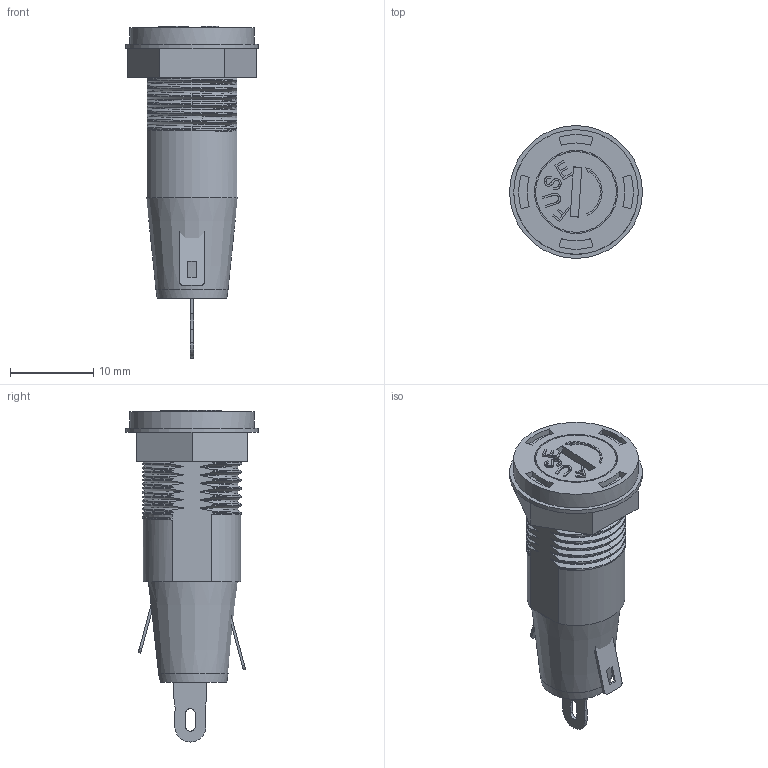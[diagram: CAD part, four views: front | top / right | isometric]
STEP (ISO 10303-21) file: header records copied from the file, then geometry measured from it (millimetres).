
FILE_DESCRIPTION(/* description */ (''),/* implementation_level */ '2;1');
FILE_NAME(/* name */ 'C:\Users\Hani\Desktop\work\PMC-DS-01-SOS\PMC-DS-01-SOS Rev A.stp',/* time_stamp */ '2020-09-01T19:38:07-07:00',/* author */ ('Hani'),/* organization */ (''),/* preprocessor_version */ 'ST-DEVELOPER v17',/* originating_system */ 'Autodesk Inventor 2019',/* authorisation */ '');
FILE_SCHEMA (('AUTOMOTIVE_DESIGN { 1 0 10303 214 3 1 1 }'));
Products named in the file (6): fuse holder; NUT; fuseH; fuse holder_1; fuse holder_TER; ter
Assembly tree (6 placements, depth 2):
  fuse holder
    fuse holder_TER  x2
    NUT
    fuseH
    fuse holder_1
    ter
Bounding box: 16 x 16 x 39.99 mm (x, y, z)
Volume: 2690.4 mm3; surface area: 4225.5 mm2
Topology: 6 solids, 6 shells, 560 faces, 1600 edges, 1068 vertices
Faces by surface type: plane 309, bspline 131, cylinder 115, cone 5
Full cylindrical faces by diameter (mm): 6 x4, 7 x1, 7.562 x1, 8 x2, 9.7 x1, 10 x1, 10.917 x3, 12 x3, 15 x1, 16 x1
Entity records: 39950 total; most frequent: CARTESIAN_POINT 26708, ORIENTED_EDGE 3102, DIRECTION 2217, EDGE_CURVE 1551, VERTEX_POINT 1035, LINE 925, VECTOR 925, AXIS2_PLACEMENT_3D 646
